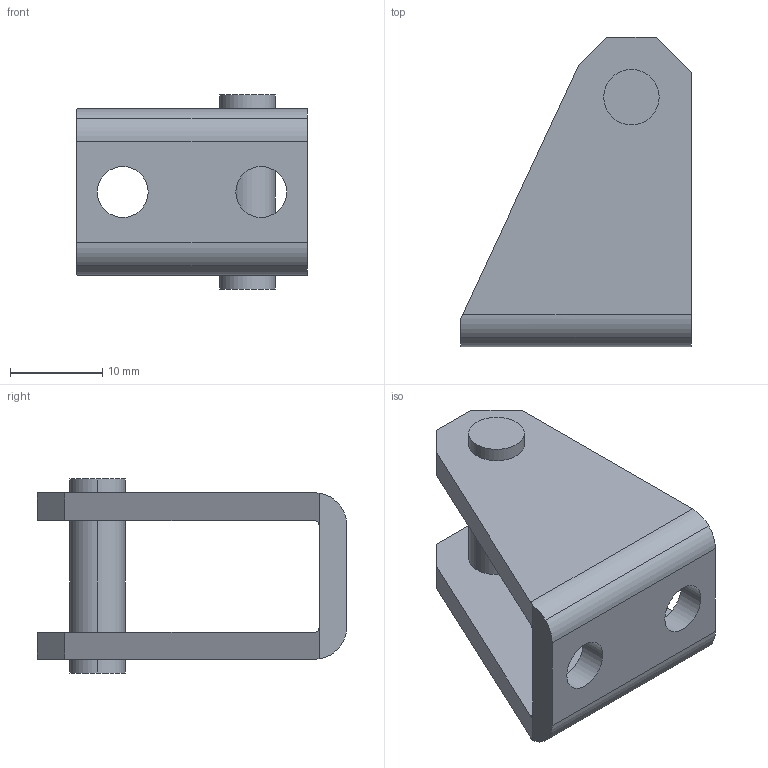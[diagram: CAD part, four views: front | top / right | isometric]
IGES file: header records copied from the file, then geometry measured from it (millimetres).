
Global section: file name: No Iges File Name specified; native system: AutoDesk Inventor R6.0; preprocessor: AutoDesk Inventor Iges Exporter R6.0; author: No Author specified; organization: No Organization specified; date: 20030408.082028; units: millimetre
Bounding box: 25 x 33.5 x 21 mm (x, y, z)
Volume: 4668.1 mm3; surface area: 3720.1 mm2
Topology: 1 solids, 1 shells, 36 faces, 94 edges, 62 vertices
Faces by surface type: plane 18, cylinder 10, bspline 4, revolution 4
